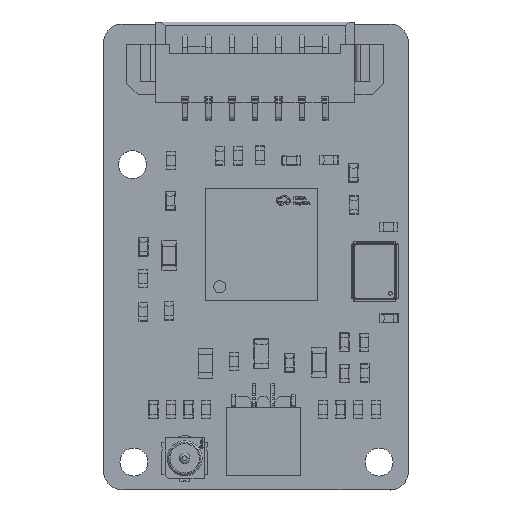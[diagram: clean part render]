
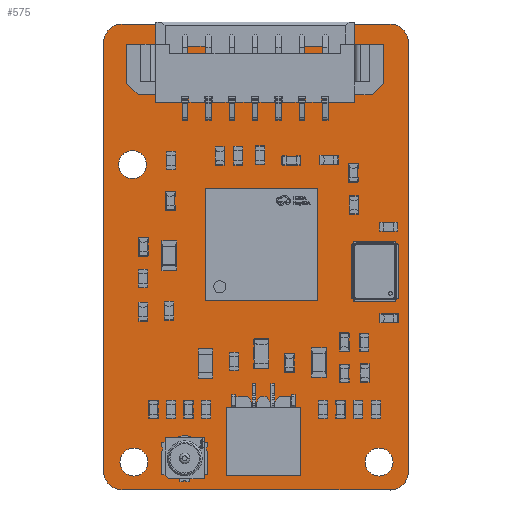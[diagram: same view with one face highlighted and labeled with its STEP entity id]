
A CAD part, top view. The second image highlights one B-rep face of the part: STEP entity #575.
In plain terms, the highlighted planar face has unit normal (0, 0, 1).
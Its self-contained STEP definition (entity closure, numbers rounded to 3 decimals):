
#66 = VERTEX_POINT('',#67);
#67 = CARTESIAN_POINT('',(-8.125,-0.967,1.2    ));
#73 = EDGE_CURVE('',#66,#74,#76,.T.);
#74 = VERTEX_POINT('',#75);
#75 = CARTESIAN_POINT('',(-7.137,0.02,    1.2));
#76 = CIRCLE('',#77,0.987);
#77 = AXIS2_PLACEMENT_3D('',#78,#79,#80);
#78 = CARTESIAN_POINT('',(-7.137,-0.967,1.2    ));
#79 = DIRECTION('',(0.,0.,-1.));
#80 = DIRECTION('',(-1.,0.,-0.));
#106 = EDGE_CURVE('',#74,#107,#109,.T.);
#107 = VERTEX_POINT('',#108);
#108 = CARTESIAN_POINT('',(7.214,0.02,    1.2));
#109 = LINE('',#110,#111);
#110 = CARTESIAN_POINT('',(-7.137,0.02,    1.2));
#111 = VECTOR('',#112,1.);
#112 = DIRECTION('',(1.,0.,0.));
#137 = EDGE_CURVE('',#107,#138,#140,.T.);
#138 = VERTEX_POINT('',#139);
#139 = CARTESIAN_POINT('',(8.201,-0.967,1.2    ));
#140 = CIRCLE('',#141,0.987);
#141 = AXIS2_PLACEMENT_3D('',#142,#143,#144);
#142 = CARTESIAN_POINT('',(7.214,-0.967,1.2    ));
#143 = DIRECTION('',(0.,0.,-1.));
#144 = DIRECTION('',(0.,1.,0.));
#170 = EDGE_CURVE('',#138,#171,#173,.T.);
#171 = VERTEX_POINT('',#172);
#172 = CARTESIAN_POINT('',(8.201,-23.947,1.2    ));
#173 = LINE('',#174,#175);
#174 = CARTESIAN_POINT('',(8.201,-0.967,1.2    ));
#175 = VECTOR('',#176,1.);
#176 = DIRECTION('',(0.,-1.,0.));
#201 = EDGE_CURVE('',#171,#202,#204,.T.);
#202 = VERTEX_POINT('',#203);
#203 = CARTESIAN_POINT('',(7.225,-24.934,1.2    ));
#204 = CIRCLE('',#205,0.99);
#205 = AXIS2_PLACEMENT_3D('',#206,#207,#208);
#206 = CARTESIAN_POINT('',(7.211,-23.945,1.2)  );
#207 = DIRECTION('',(0.,0.,-1.));
#208 = DIRECTION('',(1.,-0.003,0.));
#234 = EDGE_CURVE('',#202,#235,#237,.T.);
#235 = VERTEX_POINT('',#236);
#236 = CARTESIAN_POINT('',(-7.125,-24.931,    1.2));
#237 = LINE('',#238,#239);
#238 = CARTESIAN_POINT('',(7.225,-24.934,1.2    ));
#239 = VECTOR('',#240,1.);
#240 = DIRECTION('',(-1.,0.,0.));
#265 = EDGE_CURVE('',#235,#266,#268,.T.);
#266 = VERTEX_POINT('',#267);
#267 = CARTESIAN_POINT('',(-7.137,-24.923,1.2    ));
#268 = CIRCLE('',#269,0.013);
#269 = AXIS2_PLACEMENT_3D('',#270,#271,#272);
#270 = CARTESIAN_POINT('',(-7.137,-24.936,1.2    ));
#271 = DIRECTION('',(0.,0.,1.));
#272 = DIRECTION('',(0.944,0.331,-0.));
#298 = EDGE_CURVE('',#266,#299,#301,.T.);
#299 = VERTEX_POINT('',#300);
#300 = CARTESIAN_POINT('',(-8.125,-23.936,    1.2));
#301 = CIRCLE('',#302,0.987);
#302 = AXIS2_PLACEMENT_3D('',#303,#304,#305);
#303 = CARTESIAN_POINT('',(-7.137,-23.936,    1.2));
#304 = DIRECTION('',(0.,0.,-1.));
#305 = DIRECTION('',(0.,-1.,-0.));
#331 = EDGE_CURVE('',#299,#66,#332,.T.);
#332 = LINE('',#333,#334);
#333 = CARTESIAN_POINT('',(-8.125,-23.936,    1.2));
#334 = VECTOR('',#335,1.);
#335 = DIRECTION('',(0.,1.,0.));
#355 = VERTEX_POINT('',#356);
#356 = CARTESIAN_POINT('',(-5.829,-7.511,    1.2));
#362 = EDGE_CURVE('',#355,#363,#365,.T.);
#363 = VERTEX_POINT('',#364);
#364 = CARTESIAN_POINT('',(-7.329,-7.511,    1.2));
#365 = CIRCLE('',#366,0.75);
#366 = AXIS2_PLACEMENT_3D('',#367,#368,#369);
#367 = CARTESIAN_POINT('',(-6.579,-7.511,    1.2));
#368 = DIRECTION('',(0.,0.,1.));
#369 = DIRECTION('',(1.,0.,-0.));
#395 = EDGE_CURVE('',#363,#355,#396,.T.);
#396 = CIRCLE('',#397,0.75);
#397 = AXIS2_PLACEMENT_3D('',#398,#399,#400);
#398 = CARTESIAN_POINT('',(-6.579,-7.511,    1.2));
#399 = DIRECTION('',(0.,0.,1.));
#400 = DIRECTION('',(-1.,0.,0.));
#421 = VERTEX_POINT('',#422);
#422 = CARTESIAN_POINT('',(-5.752,-23.437,    1.2));
#428 = EDGE_CURVE('',#421,#429,#431,.T.);
#429 = VERTEX_POINT('',#430);
#430 = CARTESIAN_POINT('',(-7.252,-23.437,    1.2));
#431 = CIRCLE('',#432,0.75);
#432 = AXIS2_PLACEMENT_3D('',#433,#434,#435);
#433 = CARTESIAN_POINT('',(-6.502,-23.437,    1.2));
#434 = DIRECTION('',(0.,0.,1.));
#435 = DIRECTION('',(1.,0.,-0.));
#461 = EDGE_CURVE('',#429,#421,#462,.T.);
#462 = CIRCLE('',#463,0.75);
#463 = AXIS2_PLACEMENT_3D('',#464,#465,#466);
#464 = CARTESIAN_POINT('',(-6.502,-23.437,    1.2));
#465 = DIRECTION('',(0.,0.,1.));
#466 = DIRECTION('',(-1.,0.,0.));
#487 = VERTEX_POINT('',#488);
#488 = CARTESIAN_POINT('',(7.379,-23.437,1.2    ));
#494 = EDGE_CURVE('',#487,#495,#497,.T.);
#495 = VERTEX_POINT('',#496);
#496 = CARTESIAN_POINT('',(5.879,-23.437,1.2    ));
#497 = CIRCLE('',#498,0.75);
#498 = AXIS2_PLACEMENT_3D('',#499,#500,#501);
#499 = CARTESIAN_POINT('',(6.629,-23.437,1.2    ));
#500 = DIRECTION('',(0.,0.,1.));
#501 = DIRECTION('',(1.,0.,-0.));
#527 = EDGE_CURVE('',#495,#487,#528,.T.);
#528 = CIRCLE('',#529,0.75);
#529 = AXIS2_PLACEMENT_3D('',#530,#531,#532);
#530 = CARTESIAN_POINT('',(6.629,-23.437,1.2    ));
#531 = DIRECTION('',(0.,0.,1.));
#532 = DIRECTION('',(-1.,0.,0.));
#575 = ADVANCED_FACE('',(#576,#587,#591,#595),#599,.F.);
#576 = FACE_BOUND('',#577,.F.);
#577 = EDGE_LOOP('',(#578,#579,#580,#581,#582,#583,#584,#585,#586));
#578 = ORIENTED_EDGE('',*,*,#73,.T.);
#579 = ORIENTED_EDGE('',*,*,#106,.T.);
#580 = ORIENTED_EDGE('',*,*,#137,.T.);
#581 = ORIENTED_EDGE('',*,*,#170,.T.);
#582 = ORIENTED_EDGE('',*,*,#201,.T.);
#583 = ORIENTED_EDGE('',*,*,#234,.T.);
#584 = ORIENTED_EDGE('',*,*,#265,.T.);
#585 = ORIENTED_EDGE('',*,*,#298,.T.);
#586 = ORIENTED_EDGE('',*,*,#331,.T.);
#587 = FACE_BOUND('',#588,.F.);
#588 = EDGE_LOOP('',(#589,#590));
#589 = ORIENTED_EDGE('',*,*,#362,.T.);
#590 = ORIENTED_EDGE('',*,*,#395,.T.);
#591 = FACE_BOUND('',#592,.F.);
#592 = EDGE_LOOP('',(#593,#594));
#593 = ORIENTED_EDGE('',*,*,#428,.T.);
#594 = ORIENTED_EDGE('',*,*,#461,.T.);
#595 = FACE_BOUND('',#596,.F.);
#596 = EDGE_LOOP('',(#597,#598));
#597 = ORIENTED_EDGE('',*,*,#494,.T.);
#598 = ORIENTED_EDGE('',*,*,#527,.T.);
#599 = PLANE('',#600);
#600 = AXIS2_PLACEMENT_3D('',#601,#602,#603);
#601 = CARTESIAN_POINT('',(0.039,-12.456,    1.2));
#602 = DIRECTION('',(-0.,-0.,-1.));
#603 = DIRECTION('',(-1.,0.,0.));
